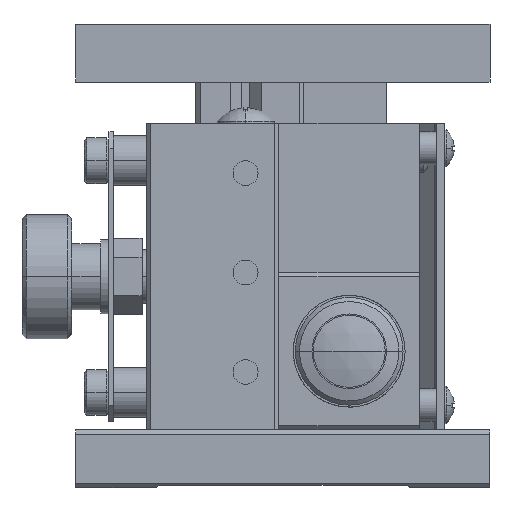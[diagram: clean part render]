
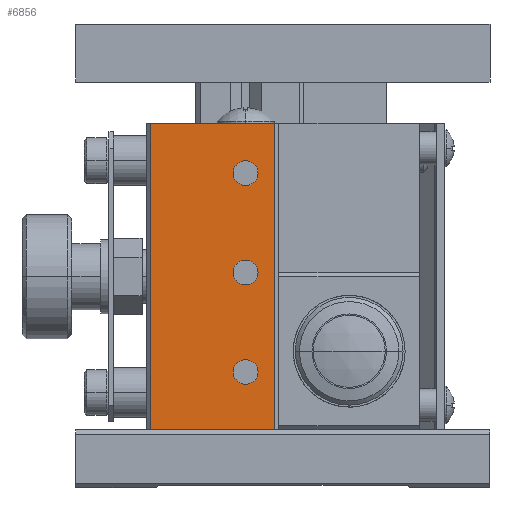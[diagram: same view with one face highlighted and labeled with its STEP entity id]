
A CAD part, left-side view. The second image highlights one B-rep face of the part: STEP entity #6856.
In plain terms, the highlighted planar face has unit normal (-1, 0, 0).
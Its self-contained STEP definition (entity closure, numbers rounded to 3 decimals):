
#4396 = CARTESIAN_POINT ( 'NONE',  ( -24., -5.5, -12. ) ) ;
#6471 = VERTEX_POINT ( 'NONE', #22854 ) ;
#6473 = EDGE_CURVE ( 'NONE', #6471, #6474, #22853, .T. ) ;
#6474 = VERTEX_POINT ( 'NONE', #22848 ) ;
#6485 = VERTEX_POINT ( 'NONE', #22889 ) ;
#6528 = EDGE_CURVE ( 'NONE', #32057, #6529, #22983, .T. ) ;
#6529 = VERTEX_POINT ( 'NONE', #22978 ) ;
#6541 = EDGE_CURVE ( 'NONE', #6485, #6542, #23017, .T. ) ;
#6542 = VERTEX_POINT ( 'NONE', #23012 ) ;
#6686 = VERTEX_POINT ( 'NONE', #23303 ) ;
#6688 = EDGE_CURVE ( 'NONE', #6686, #6689, #23302, .T. ) ;
#6689 = VERTEX_POINT ( 'NONE', #23298 ) ;
#6856 = ADVANCED_FACE ( 'NONE', ( #23583, #23582, #23581, #23580 ), #23587, .T. ) ;
#6857 = EDGE_LOOP ( 'NONE', ( #6858, #6915 ) ) ;
#6858 = ORIENTED_EDGE ( 'NONE', *, *, #6859, .F. ) ;
#6859 = EDGE_CURVE ( 'NONE', #6474, #6471, #23574, .T. ) ;
#6901 = ORIENTED_EDGE ( 'NONE', *, *, #6902, .T. ) ;
#6902 = EDGE_CURVE ( 'NONE', #6934, #6927, #23632, .T. ) ;
#6903 = ORIENTED_EDGE ( 'NONE', *, *, #6904, .T. ) ;
#6904 = EDGE_CURVE ( 'NONE', #6927, #6689, #23628, .T. ) ;
#6915 = ORIENTED_EDGE ( 'NONE', *, *, #6473, .F. ) ;
#6916 = EDGE_LOOP ( 'NONE', ( #6917, #6919 ) ) ;
#6917 = ORIENTED_EDGE ( 'NONE', *, *, #6918, .F. ) ;
#6918 = EDGE_CURVE ( 'NONE', #6542, #6485, #23673, .T. ) ;
#6919 = ORIENTED_EDGE ( 'NONE', *, *, #6541, .F. ) ;
#6920 = EDGE_LOOP ( 'NONE', ( #6921, #6923 ) ) ;
#6921 = ORIENTED_EDGE ( 'NONE', *, *, #6922, .F. ) ;
#6922 = EDGE_CURVE ( 'NONE', #6529, #32057, #23668, .T. ) ;
#6923 = ORIENTED_EDGE ( 'NONE', *, *, #6528, .F. ) ;
#6924 = EDGE_LOOP ( 'NONE', ( #6925, #6926, #6901, #6903 ) ) ;
#6925 = ORIENTED_EDGE ( 'NONE', *, *, #6688, .F. ) ;
#6926 = ORIENTED_EDGE ( 'NONE', *, *, #6936, .F. ) ;
#6927 = VERTEX_POINT ( 'NONE', #23663 ) ;
#6934 = VERTEX_POINT ( 'NONE', #23716 ) ;
#6936 = EDGE_CURVE ( 'NONE', #6934, #6686, #23715, .T. ) ;
#22848 = CARTESIAN_POINT ( 'NONE',  ( -24., -32.5, -12. ) ) ;
#22849 = DIRECTION ( 'NONE',  ( 0., -1., 0. ) ) ;
#22850 = DIRECTION ( 'NONE',  ( -1., 0., 0. ) ) ;
#22851 = CARTESIAN_POINT ( 'NONE',  ( -24., -31., -12. ) ) ;
#22852 = AXIS2_PLACEMENT_3D ( 'NONE', #22851, #22850, #22849 ) ;
#22853 = CIRCLE ( 'NONE', #22852, 1.5 ) ;
#22854 = CARTESIAN_POINT ( 'NONE',  ( -24., -29.5, -12. ) ) ;
#22889 = CARTESIAN_POINT ( 'NONE',  ( -24., -17.5, -12. ) ) ;
#22978 = CARTESIAN_POINT ( 'NONE',  ( -24., -8.5, -12. ) ) ;
#22979 = DIRECTION ( 'NONE',  ( 0., -1., 0. ) ) ;
#22980 = DIRECTION ( 'NONE',  ( -1., 0., 0. ) ) ;
#22981 = CARTESIAN_POINT ( 'NONE',  ( -24., -7., -12. ) ) ;
#22982 = AXIS2_PLACEMENT_3D ( 'NONE', #22981, #22980, #22979 ) ;
#22983 = CIRCLE ( 'NONE', #22982, 1.5 ) ;
#23012 = CARTESIAN_POINT ( 'NONE',  ( -24., -20.5, -12. ) ) ;
#23013 = DIRECTION ( 'NONE',  ( 0., -1., 0. ) ) ;
#23014 = DIRECTION ( 'NONE',  ( -1., 0., 0. ) ) ;
#23015 = CARTESIAN_POINT ( 'NONE',  ( -24., -19., -12. ) ) ;
#23016 = AXIS2_PLACEMENT_3D ( 'NONE', #23015, #23014, #23013 ) ;
#23017 = CIRCLE ( 'NONE', #23016, 1.5 ) ;
#23298 = CARTESIAN_POINT ( 'NONE',  ( -24., 0., -0.5 ) ) ;
#23299 = DIRECTION ( 'NONE',  ( 0., 0., 1. ) ) ;
#23300 = VECTOR ( 'NONE', #23299, 1000. ) ;
#23301 = CARTESIAN_POINT ( 'NONE',  ( -24., 0., -15.5 ) ) ;
#23302 = LINE ( 'NONE', #23301, #23300 ) ;
#23303 = CARTESIAN_POINT ( 'NONE',  ( -24., 0., -15.5 ) ) ;
#23571 = DIRECTION ( 'NONE',  ( 0., -1., 0. ) ) ;
#23572 = DIRECTION ( 'NONE',  ( -1., 0., 0. ) ) ;
#23573 = AXIS2_PLACEMENT_3D ( 'NONE', #23577, #23572, #23571 ) ;
#23574 = CIRCLE ( 'NONE', #23573, 1.5 ) ;
#23575 = DIRECTION ( 'NONE',  ( 0., 1., 0. ) ) ;
#23576 = DIRECTION ( 'NONE',  ( -1., 0., 0. ) ) ;
#23577 = CARTESIAN_POINT ( 'NONE',  ( -24., -31., -12. ) ) ;
#23578 = CARTESIAN_POINT ( 'NONE',  ( -24., -37., -15.5 ) ) ;
#23579 = AXIS2_PLACEMENT_3D ( 'NONE', #23578, #23576, #23575 ) ;
#23580 = FACE_OUTER_BOUND ( 'NONE', #6924, .T. ) ;
#23581 = FACE_BOUND ( 'NONE', #6920, .T. ) ;
#23582 = FACE_BOUND ( 'NONE', #6916, .T. ) ;
#23583 = FACE_BOUND ( 'NONE', #6857, .T. ) ;
#23587 = PLANE ( 'NONE',  #23579 ) ;
#23625 = DIRECTION ( 'NONE',  ( 0., 1., 0. ) ) ;
#23626 = VECTOR ( 'NONE', #23625, 1000. ) ;
#23627 = CARTESIAN_POINT ( 'NONE',  ( -24., -37., -0.5 ) ) ;
#23628 = LINE ( 'NONE', #23627, #23626 ) ;
#23629 = DIRECTION ( 'NONE',  ( 0., 0., 1. ) ) ;
#23630 = VECTOR ( 'NONE', #23629, 1000. ) ;
#23631 = CARTESIAN_POINT ( 'NONE',  ( -24., -37., -15.5 ) ) ;
#23632 = LINE ( 'NONE', #23631, #23630 ) ;
#23663 = CARTESIAN_POINT ( 'NONE',  ( -24., -37., -0.5 ) ) ;
#23664 = DIRECTION ( 'NONE',  ( 0., -1., 0. ) ) ;
#23665 = DIRECTION ( 'NONE',  ( -1., 0., 0. ) ) ;
#23666 = CARTESIAN_POINT ( 'NONE',  ( -24., -7., -12. ) ) ;
#23667 = AXIS2_PLACEMENT_3D ( 'NONE', #23666, #23665, #23664 ) ;
#23668 = CIRCLE ( 'NONE', #23667, 1.5 ) ;
#23669 = DIRECTION ( 'NONE',  ( 0., -1., 0. ) ) ;
#23670 = DIRECTION ( 'NONE',  ( -1., 0., 0. ) ) ;
#23671 = CARTESIAN_POINT ( 'NONE',  ( -24., -19., -12. ) ) ;
#23672 = AXIS2_PLACEMENT_3D ( 'NONE', #23671, #23670, #23669 ) ;
#23673 = CIRCLE ( 'NONE', #23672, 1.5 ) ;
#23712 = DIRECTION ( 'NONE',  ( 0., 1., 0. ) ) ;
#23713 = VECTOR ( 'NONE', #23712, 1000. ) ;
#23714 = CARTESIAN_POINT ( 'NONE',  ( -24., -37., -15.5 ) ) ;
#23715 = LINE ( 'NONE', #23714, #23713 ) ;
#23716 = CARTESIAN_POINT ( 'NONE',  ( -24., -37., -15.5 ) ) ;
#32057 = VERTEX_POINT ( 'NONE', #4396 ) ;
